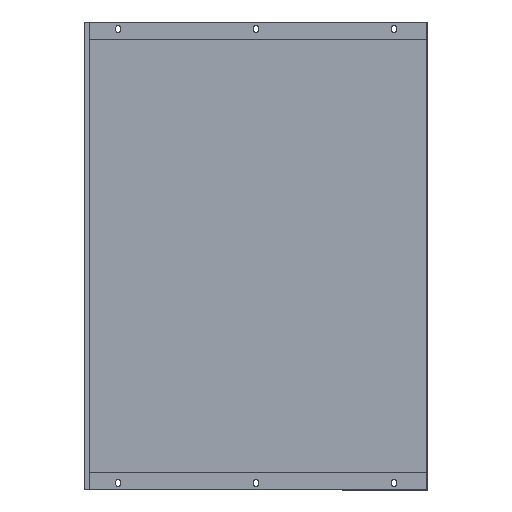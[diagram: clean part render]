
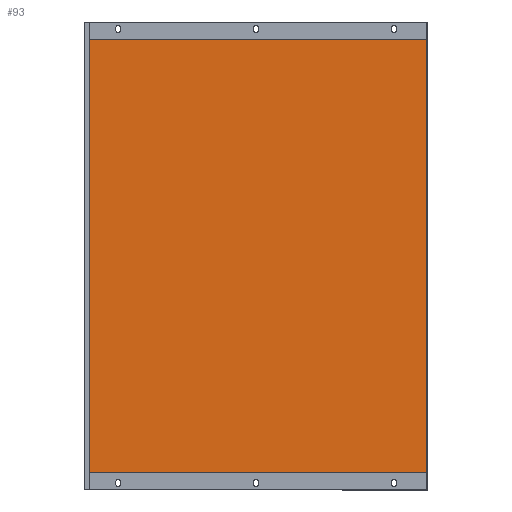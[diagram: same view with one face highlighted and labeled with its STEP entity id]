
A CAD part, front view. The second image highlights one B-rep face of the part: STEP entity #93.
In plain terms, the highlighted planar face has unit normal (0, -1, 0).
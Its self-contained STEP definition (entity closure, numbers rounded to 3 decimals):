
#14 = ORIENTED_EDGE ( 'NONE', *, *, #766, .T. ) ;
#93 = ADVANCED_FACE ( 'NONE', ( #541 ), #1378, .F. ) ;
#102 = LINE ( 'NONE', #399, #282 ) ;
#138 = VERTEX_POINT ( 'NONE', #858 ) ;
#148 = EDGE_CURVE ( 'NONE', #1128, #975, #993, .T. ) ;
#149 = ORIENTED_EDGE ( 'NONE', *, *, #1646, .F. ) ;
#282 = VECTOR ( 'NONE', #1182, 1000. ) ;
#293 = DIRECTION ( 'NONE',  ( 0., 0., 1. ) ) ;
#295 = CARTESIAN_POINT ( 'NONE',  ( 488.6, 61.1, 679. ) ) ;
#321 = CARTESIAN_POINT ( 'NONE',  ( -6.6, 61.1, 679. ) ) ;
#351 = AXIS2_PLACEMENT_3D ( 'NONE', #431, #965, #293 ) ;
#399 = CARTESIAN_POINT ( 'NONE',  ( 0., 61.1, 654. ) ) ;
#431 = CARTESIAN_POINT ( 'NONE',  ( -8., 61.1, 679. ) ) ;
#535 = ORIENTED_EDGE ( 'NONE', *, *, #148, .T. ) ;
#541 = FACE_OUTER_BOUND ( 'NONE', #1502, .T. ) ;
#551 = CARTESIAN_POINT ( 'NONE',  ( 0., 61.1, 25. ) ) ;
#571 = DIRECTION ( 'NONE',  ( 0., 0., -1. ) ) ;
#672 = VECTOR ( 'NONE', #1239, 1000. ) ;
#766 = EDGE_CURVE ( 'NONE', #138, #1128, #102, .T. ) ;
#858 = CARTESIAN_POINT ( 'NONE',  ( 488.6, 61.1, 654. ) ) ;
#965 = DIRECTION ( 'NONE',  ( 0., 1., 0. ) ) ;
#975 = VERTEX_POINT ( 'NONE', #1193 ) ;
#993 = LINE ( 'NONE', #321, #1277 ) ;
#1018 = CARTESIAN_POINT ( 'NONE',  ( 488.6, 61.1, 25. ) ) ;
#1128 = VERTEX_POINT ( 'NONE', #1622 ) ;
#1139 = LINE ( 'NONE', #551, #1755 ) ;
#1182 = DIRECTION ( 'NONE',  ( -1., 0., 0. ) ) ;
#1193 = CARTESIAN_POINT ( 'NONE',  ( -6.6, 61.1, 25. ) ) ;
#1239 = DIRECTION ( 'NONE',  ( 0., 0., -1. ) ) ;
#1277 = VECTOR ( 'NONE', #571, 1000. ) ;
#1323 = VERTEX_POINT ( 'NONE', #1018 ) ;
#1378 = PLANE ( 'NONE',  #351 ) ;
#1412 = EDGE_CURVE ( 'NONE', #975, #1323, #1139, .T. ) ;
#1502 = EDGE_LOOP ( 'NONE', ( #535, #1720, #149, #14 ) ) ;
#1528 = LINE ( 'NONE', #295, #672 ) ;
#1590 = DIRECTION ( 'NONE',  ( 1., 0., 0. ) ) ;
#1622 = CARTESIAN_POINT ( 'NONE',  ( -6.6, 61.1, 654. ) ) ;
#1646 = EDGE_CURVE ( 'NONE', #138, #1323, #1528, .T. ) ;
#1720 = ORIENTED_EDGE ( 'NONE', *, *, #1412, .T. ) ;
#1755 = VECTOR ( 'NONE', #1590, 1000. ) ;
